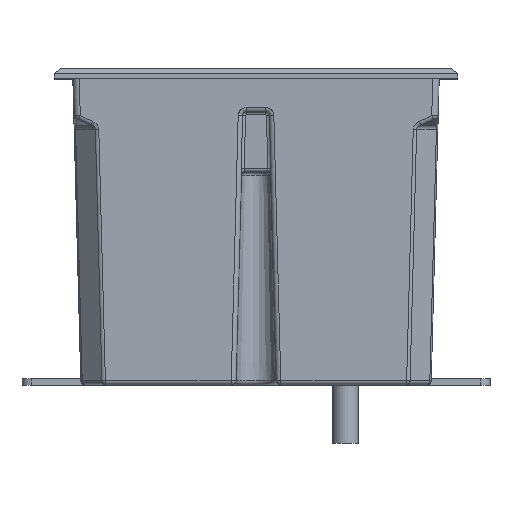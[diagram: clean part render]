
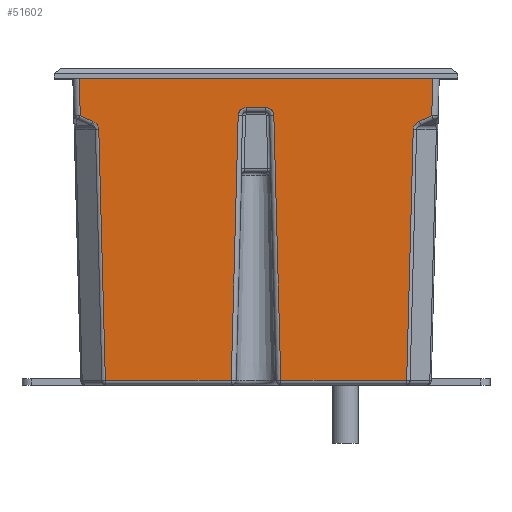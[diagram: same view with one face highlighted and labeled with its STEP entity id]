
A CAD part, top view. The second image highlights one B-rep face of the part: STEP entity #51602.
In plain terms, the highlighted planar face has unit normal (0, -0.026, 1) as drawn and (1, -0.026, 0) by its records, which use the part's own axes.
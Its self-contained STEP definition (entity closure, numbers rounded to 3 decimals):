
#38042=CARTESIAN_POINT('',(56.75,95.,-54.751));
#38050=DIRECTION('',(0.,0.,-1.));
#38051=VECTOR('',#38050,109.501);
#38052=CARTESIAN_POINT('',(56.75,95.,54.751));
#38053=LINE('',#38052,#38051);
#38060=CARTESIAN_POINT('',(56.75,95.,54.751));
#42739=DIRECTION('',(-0.026,-0.999,0.026));
#42740=VECTOR('',#42739,82.122);
#42741=CARTESIAN_POINT('',(56.45,83.526,5.524));
#42742=LINE('',#42741,#42740);
#42743=DIRECTION('',(0.,0.,1.));
#42744=VECTOR('',#42743,39.004);
#42745=CARTESIAN_POINT('',(54.301,1.461,7.673));
#42746=LINE('',#42745,#42744);
#42747=DIRECTION('',(-0.026,-0.999,-0.026));
#42748=VECTOR('',#42747,77.857);
#42749=CARTESIAN_POINT('',(56.338,79.264,48.714));
#42750=LINE('',#42749,#42748);
#42751=CARTESIAN_POINT('',(56.401,81.673,50.588));
#42752=CARTESIAN_POINT('',(56.398,81.56,50.344));
#42753=CARTESIAN_POINT('',(56.391,81.306,49.905));
#42754=CARTESIAN_POINT('',(56.379,80.846,49.376));
#42755=CARTESIAN_POINT('',(56.366,80.331,48.996));
#42756=CARTESIAN_POINT('',(56.352,79.793,48.771));
#42757=CARTESIAN_POINT('',(56.343,79.441,48.719));
#42758=CARTESIAN_POINT('',(56.338,79.264,48.714));
#42760=DIRECTION('',(-0.011,-0.42,-0.908));
#42761=VECTOR('',#42760,4.254);
#42762=CARTESIAN_POINT('',(56.448,83.459,54.448));
#42763=LINE('',#42762,#42761);
#42764=DIRECTION('',(-0.026,-0.999,-0.026));
#42765=VECTOR('',#42764,11.549);
#42766=CARTESIAN_POINT('',(56.75,95.,54.751));
#42767=LINE('',#42766,#42765);
#42768=DIRECTION('',(-0.026,-0.999,0.026));
#42769=VECTOR('',#42768,11.549);
#42770=CARTESIAN_POINT('',(56.75,95.,-54.751));
#42771=LINE('',#42770,#42769);
#42772=DIRECTION('',(0.011,0.42,-0.908));
#42773=VECTOR('',#42772,4.254);
#42774=CARTESIAN_POINT('',(56.401,81.673,
-50.588));
#42775=LINE('',#42774,#42773);
#42776=CARTESIAN_POINT('',(56.338,79.264,
-48.714));
#42777=CARTESIAN_POINT('',(56.342,79.435,
-48.719));
#42778=CARTESIAN_POINT('',(56.351,79.781,
-48.768));
#42779=CARTESIAN_POINT('',(56.366,80.325,
-48.992));
#42780=CARTESIAN_POINT('',(56.379,80.842,
-49.373));
#42781=CARTESIAN_POINT('',(56.391,81.304,
-49.902));
#42782=CARTESIAN_POINT('',(56.398,81.56,
-50.343));
#42783=CARTESIAN_POINT('',(56.401,81.673,
-50.588));
#42785=DIRECTION('',(0.026,0.999,-0.026));
#42786=VECTOR('',#42785,77.857);
#42787=CARTESIAN_POINT('',(54.301,1.461,
-46.677));
#42788=LINE('',#42787,#42786);
#42789=DIRECTION('',(0.,0.,1.));
#42790=VECTOR('',#42789,39.004);
#42791=CARTESIAN_POINT('',(54.301,1.461,
-46.677));
#42792=LINE('',#42791,#42790);
#42793=DIRECTION('',(0.026,0.999,0.026));
#42794=VECTOR('',#42793,82.122);
#42795=CARTESIAN_POINT('',(54.301,1.461,
-7.673));
#42796=LINE('',#42795,#42794);
#42797=CARTESIAN_POINT('',(56.45,83.526,
-5.524));
#42798=CARTESIAN_POINT('',(56.457,83.791,
-5.517));
#42799=CARTESIAN_POINT('',(56.47,84.292,
-5.424));
#42800=CARTESIAN_POINT('',(56.488,84.987,
-5.056));
#42801=CARTESIAN_POINT('',(56.502,85.53,
-4.498));
#42802=CARTESIAN_POINT('',(56.511,85.88,
-3.795));
#42803=CARTESIAN_POINT('',(56.513,85.961,
-3.291));
#42804=CARTESIAN_POINT('',(56.513,85.961,
-3.025));
#42806=DIRECTION('',(0.,0.,1.));
#42807=VECTOR('',#42806,6.05);
#42808=CARTESIAN_POINT('',(56.513,85.961,
-3.025));
#42809=LINE('',#42808,#42807);
#42810=CARTESIAN_POINT('',(56.513,85.961,3.025));
#42811=CARTESIAN_POINT('',(56.513,85.961,3.29));
#42812=CARTESIAN_POINT('',(56.511,85.881,3.793));
#42813=CARTESIAN_POINT('',(56.502,85.531,4.498));
#42814=CARTESIAN_POINT('',(56.488,84.988,5.055));
#42815=CARTESIAN_POINT('',(56.47,84.294,5.424));
#42816=CARTESIAN_POINT('',(56.457,83.792,5.517));
#42817=CARTESIAN_POINT('',(56.45,83.526,5.524));
#43162=CARTESIAN_POINT('',(56.448,83.459,
-54.448));
#43691=VERTEX_POINT('',#38060);
#43692=VERTEX_POINT('',#38042);
#43725=VERTEX_POINT('',#42751);
#43726=VERTEX_POINT('',#42758);
#43729=CARTESIAN_POINT('',(56.448,83.459,54.448));
#43730=VERTEX_POINT('',#43729);
#43749=VERTEX_POINT('',#43162);
#43751=CARTESIAN_POINT('',(56.401,81.673,
-50.588));
#43752=VERTEX_POINT('',#43751);
#43755=VERTEX_POINT('',#42776);
#43758=CARTESIAN_POINT('',(54.301,1.461,
-46.677));
#43760=VERTEX_POINT('',#43758);
#43803=CARTESIAN_POINT('',(54.301,1.461,46.677));
#43804=VERTEX_POINT('',#43803);
#44641=CARTESIAN_POINT('',(54.301,1.461,7.673));
#44643=VERTEX_POINT('',#44641);
#44647=CARTESIAN_POINT('',(56.45,83.526,5.524));
#44648=VERTEX_POINT('',#44647);
#44649=VERTEX_POINT('',#42810);
#44650=CARTESIAN_POINT('',(56.513,85.961,
-3.025));
#44651=VERTEX_POINT('',#44650);
#44652=VERTEX_POINT('',#42797);
#44653=CARTESIAN_POINT('',(54.301,1.461,
-7.673));
#44654=VERTEX_POINT('',#44653);
#51565=CARTESIAN_POINT('',(56.75,95.,59.988));
#51566=DIRECTION('',(1.,-0.026,0.));
#51567=DIRECTION('',(0.,0.,1.));
#51568=AXIS2_PLACEMENT_3D('',#51565,#51566,#51567);
#51569=PLANE('',#51568);
#51571=ORIENTED_EDGE('',*,*,#51570,.T.);
#51573=ORIENTED_EDGE('',*,*,#51572,.T.);
#51575=ORIENTED_EDGE('',*,*,#51574,.F.);
#51577=ORIENTED_EDGE('',*,*,#51576,.F.);
#51579=ORIENTED_EDGE('',*,*,#51578,.F.);
#51580=ORIENTED_EDGE('',*,*,#51560,.F.);
#51581=ORIENTED_EDGE('',*,*,#44742,.T.);
#51583=ORIENTED_EDGE('',*,*,#51582,.T.);
#51585=ORIENTED_EDGE('',*,*,#51584,.F.);
#51587=ORIENTED_EDGE('',*,*,#51586,.F.);
#51589=ORIENTED_EDGE('',*,*,#51588,.F.);
#51591=ORIENTED_EDGE('',*,*,#51590,.T.);
#51593=ORIENTED_EDGE('',*,*,#51592,.T.);
#51595=ORIENTED_EDGE('',*,*,#51594,.T.);
#51597=ORIENTED_EDGE('',*,*,#51596,.T.);
#51599=ORIENTED_EDGE('',*,*,#51598,.T.);
#51600=EDGE_LOOP('',(#51571,#51573,#51575,#51577,#51579,#51580,#51581,#51583,
#51585,#51587,#51589,#51591,#51593,#51595,#51597,#51599));
#51601=FACE_OUTER_BOUND('',#51600,.F.);
#51602=ADVANCED_FACE('',(#51601),#51569,.T.);
#42759=B_SPLINE_CURVE_WITH_KNOTS('',3,(#42751,#42752,#42753,#42754,#42755,
#42756,#42757,#42758),.UNSPECIFIED.,.F.,.F.,(4,1,1,1,1,4),(0.,0.2,0.4,
0.6,0.8,1.),.UNSPECIFIED.);
#42784=B_SPLINE_CURVE_WITH_KNOTS('',3,(#42776,#42777,#42778,#42779,#42780,
#42781,#42782,#42783),.UNSPECIFIED.,.F.,.F.,(4,1,1,1,1,4),(0.,0.2,0.4,
0.6,0.8,1.),.UNSPECIFIED.);
#42805=B_SPLINE_CURVE_WITH_KNOTS('',3,(#42797,#42798,#42799,#42800,#42801,
#42802,#42803,#42804),.UNSPECIFIED.,.F.,.F.,(4,1,1,1,1,4),(0.,0.2,0.4,
0.6,0.8,1.),.UNSPECIFIED.);
#42818=B_SPLINE_CURVE_WITH_KNOTS('',3,(#42810,#42811,#42812,#42813,#42814,
#42815,#42816,#42817),.UNSPECIFIED.,.F.,.F.,(4,1,1,1,1,4),(0.,0.2,0.4,
0.6,0.8,1.),.UNSPECIFIED.);
#44742=EDGE_CURVE('',#43691,#43692,#38053,.T.);
#51560=EDGE_CURVE('',#43691,#43730,#42767,.T.);
#51570=EDGE_CURVE('',#44648,#44643,#42742,.T.);
#51572=EDGE_CURVE('',#44643,#43804,#42746,.T.);
#51574=EDGE_CURVE('',#43726,#43804,#42750,.T.);
#51576=EDGE_CURVE('',#43725,#43726,#42759,.T.);
#51578=EDGE_CURVE('',#43730,#43725,#42763,.T.);
#51582=EDGE_CURVE('',#43692,#43749,#42771,.T.);
#51584=EDGE_CURVE('',#43752,#43749,#42775,.T.);
#51586=EDGE_CURVE('',#43755,#43752,#42784,.T.);
#51588=EDGE_CURVE('',#43760,#43755,#42788,.T.);
#51590=EDGE_CURVE('',#43760,#44654,#42792,.T.);
#51592=EDGE_CURVE('',#44654,#44652,#42796,.T.);
#51594=EDGE_CURVE('',#44652,#44651,#42805,.T.);
#51596=EDGE_CURVE('',#44651,#44649,#42809,.T.);
#51598=EDGE_CURVE('',#44649,#44648,#42818,.T.);
